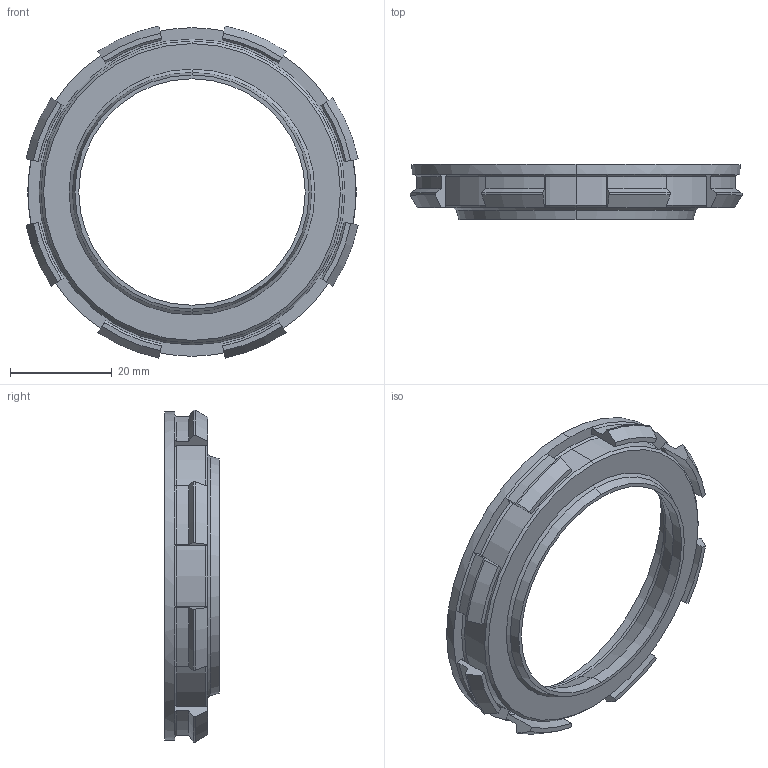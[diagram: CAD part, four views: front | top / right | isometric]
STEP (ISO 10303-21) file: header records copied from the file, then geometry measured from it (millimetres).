
FILE_DESCRIPTION (( 'STEP AP214' ), '1' );
FILE_NAME ('rpf1_ring_2.STEP', '2018-09-07T17:29:20', ( '' ), ( '' ), 'SwSTEP 2.0', 'SolidWorks 2018', '' );
FILE_SCHEMA (( 'AUTOMOTIVE_DESIGN' ));
Length unit declared in the file: millimetre
Products named in the file (1): rpf1_ring_2
Bounding box: 65.22 x 10.8 x 65.22 mm (x, y, z)
Volume: 8547.7 mm3; surface area: 8168.4 mm2
Topology: 1 solids, 1 shells, 105 faces, 274 edges, 174 vertices
Faces by surface type: cone 42, cylinder 34, plane 29
Entity records: 3268 total; most frequent: DIRECTION 596, CARTESIAN_POINT 554, ORIENTED_EDGE 548, EDGE_CURVE 274, AXIS2_PLACEMENT_3D 216, VERTEX_POINT 174, LINE 164, VECTOR 164
